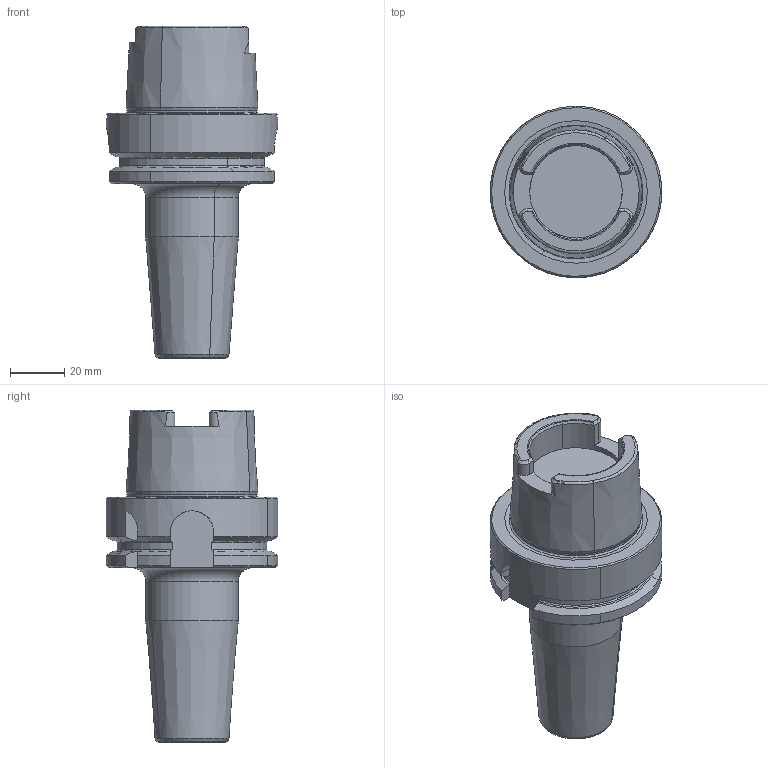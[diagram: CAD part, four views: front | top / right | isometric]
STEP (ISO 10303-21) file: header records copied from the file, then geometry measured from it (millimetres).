
FILE_DESCRIPTION(('CATIA V5 STEP','CAx-IF Rec.Pracs.--- Model Styling and Organization---1.2---2011-12-15'),'2;1');
FILE_NAME('\\nas01\drv1\utils\eitdev\rte\eit\transmagicconvert\db\out\4503903 L.stp','2014-03-31T04:33:08+00:00',('none'),('none'),'CATIA Version 5 Release 21 SP 5 (IN-10)','CATIA V5 STEP AP214','none');
FILE_SCHEMA(('AUTOMOTIVE_DESIGN { 1 0 10303 214 1 1 1 1 }'));
Length unit declared in the file: millimetre
Products named in the file (1): 60966384_0 Holder-Tool HSK A 63 SRKIN 14X90
Bounding box: 62.99 x 63 x 122 mm (x, y, z)
Volume: 168344 mm3; surface area: 23607.1 mm2
Topology: 1 solids, 1 shells, 126 faces, 332 edges, 211 vertices
Faces by surface type: plane 41, cone 35, cylinder 26, torus 24
Entity records: 3881 total; most frequent: CARTESIAN_POINT 1124, ORIENTED_EDGE 664, DIRECTION 403, EDGE_CURVE 332, VERTEX_POINT 211, AXIS2_PLACEMENT_3D 210, CIRCLE 139, EDGE_LOOP 129
